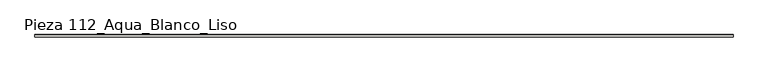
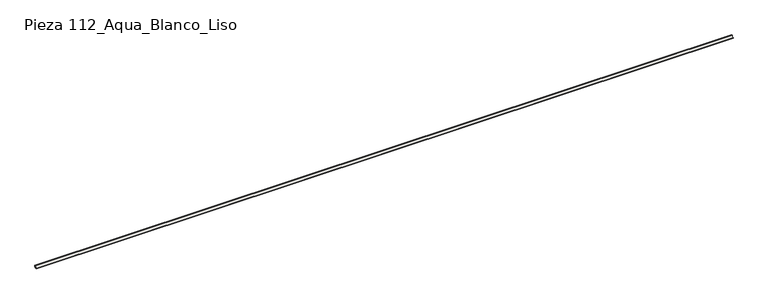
"""IFC4 building model written with IfcOpenShell, lengths in millimetres: slab geometry, ROSA GRES_112 : Pieza 112_Aqua_Blanco_Liso."""

from ifc_helpers import new_model, si_unit, point, frame, frame_2d, origin, place, context, project, spatial, polyline, circle_curve, trimmed, segment, composite_curve, outline, extrude, source, transform, mapped, element, save


def pieza_112_aqua_blanco_liso_f6d43e3e(model_context):
    return source(origin(), model_context, "Body", "SweptSolid", [
        extrude(outline(composite_curve([segment(polyline([(0.0, 8.7114978), (-8.7114978, 0.0), (-40.0, 0.0), (-40.0, 9.9734114)]), True, "CONTINUOUS"), segment(trimmed(circle_curve(frame_2d((-39.9955547, 39.9955547)), 30.0221435), [point((-40.0, 9.9734114))], [point((-9.9734114, 40.0))], True, "CARTESIAN"), True, "CONTINUOUS"), segment(polyline([(-9.9734114, 40.0), (0.0, 40.0), (0.0, 8.7114978)]), True, "CONTINUOUS")], self_intersect=False)), frame((0.0, 0.0, 0.0), z_axis=(1.0, 0.0, 0.0), x_axis=(0.0, 1.0, 0.0)), (0.0, 0.0, 1.0), 12019.9468229),
    ])


if __name__ == "__main__":
    model = new_model("IFC4")
    model_context = context("Model", 3, world=origin())
    ifc_project = project(units=[si_unit("LENGTHUNIT", "METRE", prefix="MILLI")], contexts=[model_context])
    site = spatial("IfcSite", under=ifc_project)
    building = spatial("IfcBuilding", under=site)
    placement = place(None, origin())
    pieza_112_aqua_blanco_liso_shape = pieza_112_aqua_blanco_liso_f6d43e3e(model_context)
    element("IfcSlab", 1, ObjectType="ROSA GRES_112 : Pieza 112_Aqua_Blanco_Liso", at=placement, inside=building, context=model_context, shape_type="MappedRepresentation", body=[
        mapped(pieza_112_aqua_blanco_liso_shape, transform((0.0, 0.0, 0.0), x_axis=(1.0, 0.0, 0.0), y_axis=(0.0, 1.0, 0.0), z_axis=(0.0, 0.0, 1.0))),
    ])
    save(model, "model.ifc")
